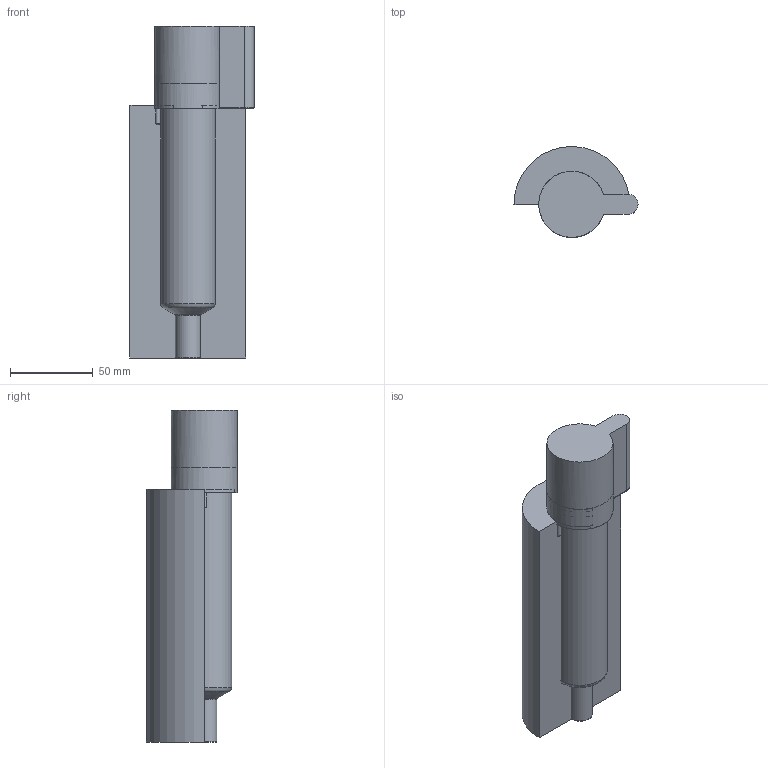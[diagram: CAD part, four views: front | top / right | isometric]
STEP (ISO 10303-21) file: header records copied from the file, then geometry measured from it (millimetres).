
FILE_DESCRIPTION(/* description */ (''),/* implementation_level */ '2;1');
FILE_NAME(/* name */ 'BXYCN19130N3F_200C_a',/* time_stamp */ '2017-09-28T17:02:15+13:00',/* author */ (''),/* organization */ (''),/* preprocessor_version */ 'ST-DEVELOPER v9',/* originating_system */ 'UGS - NX 4.0',/* authorisation */ '');
FILE_SCHEMA (('AUTOMOTIVE_DESIGN { 1 0 10303 214 1 1 1 1 }'));
Length unit declared in the file: millimetre
Products named in the file (1): BXYCN19130N3F_200C_a
Bounding box: 75 x 55 x 200.62 mm (x, y, z)
Volume: 536851.4 mm3; surface area: 81071.8 mm2
Topology: 10 solids, 10 shells, 97 faces, 227 edges, 148 vertices
Faces by surface type: plane 41, cylinder 30, torus 10, cone 8, sphere 7, bspline 1
Full cylindrical faces by diameter (mm): 1 x2, 2.5 x3, 7 x1, 8 x1, 14.61 x1, 14.995 x2, 18.3 x1, 28.6 x1, 33 x1, 40 x1
Entity records: 2749 total; most frequent: CARTESIAN_POINT 646, DIRECTION 439, ORIENTED_EDGE 346, AXIS2_PLACEMENT_3D 183, EDGE_CURVE 173, VERTEX_POINT 133, EDGE_LOOP 129, ADVANCED_FACE 97
